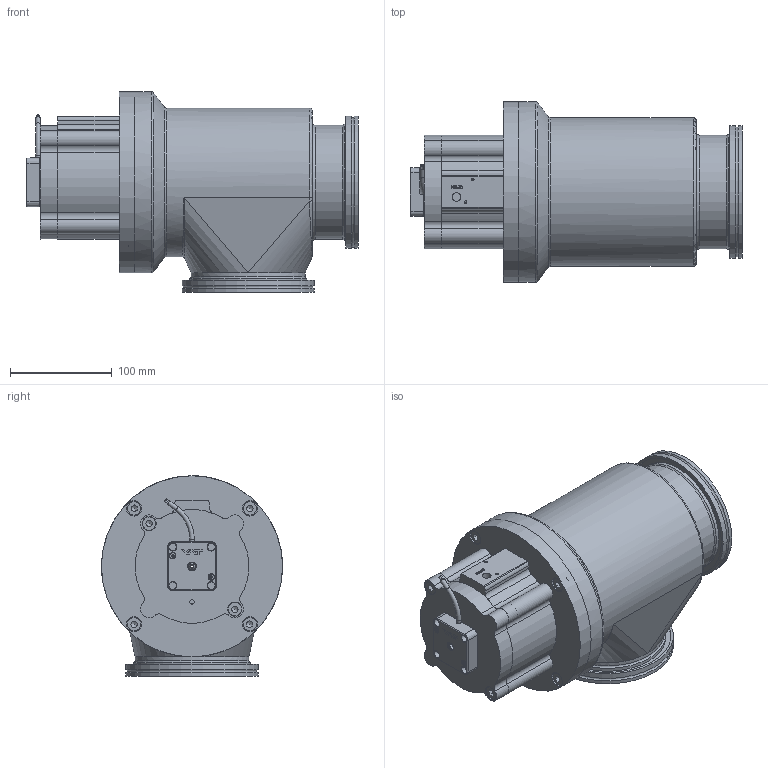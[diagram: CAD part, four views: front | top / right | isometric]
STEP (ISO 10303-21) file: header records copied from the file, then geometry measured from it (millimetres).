
FILE_DESCRIPTION(/* description */ (''),/* implementation_level */ '2;1');
FILE_NAME(/* name */ '1672032288_203.stp',/* time_stamp */ '2013-07-16T08:43:56+02:00',/* author */ (''),/* organization */ (''),/* preprocessor_version */ 'ST-DEVELOPER v11',/* originating_system */ 'SIEMENS PLM Software NX 7.5',/* authorisation */ '');
FILE_SCHEMA (('AP203_CONFIGURATION_CONTROLLED_3D_DESIGN_OF_MECHANICAL_PARTS_AND_ASSEMBLIES_MIM_LF'));
Length unit declared in the file: millimetre
Products named in the file (14): 518957_18148ID; n-6121-026.2; 517625_18154ID; 421306; 233359; 236204_1.1; 543750; 542372; 228777; 476060; 518946_MODEL; 542323_MODEL; 421285; 563648
Assembly tree (19 placements, depth 3):
  563648
    476060
    228777  x6
    542372
    421285
      236204_1.1  x2
      233359
      421306
    542323_MODEL
      517625_18154ID
      n-6121-026.2
    518946_MODEL
      518957_18148ID
    543750
Bounding box: 326.31 x 178 x 197 mm (x, y, z)
Volume: 1829193.6 mm3; surface area: 442019.5 mm2
Topology: 28 solids, 28 shells, 748 faces, 1822 edges, 1179 vertices
Faces by surface type: plane 375, cylinder 221, cone 78, bspline 34, torus 31, extrusion 8, sphere 1
Full cylindrical faces by diameter (mm): 1.4 x4, 2.5 x5, 3 x6, 3.85 x1, 4 x1, 4.2 x2, 4.5 x2, 5.6 x2, 6.2 x2, 6.66 x6, 6.7 x6, 6.8 x8, 7.4 x1, 8 x13, 8.15 x2, 8.4 x1, 8.566 x1, 9 x8, 13 x6, 14 x2, 15 x6, 21 x1, 23.011 x2, 23.3 x2, 29.4 x2, 30 x1, 33.7 x1, 36 x1, 39.5 x1, 40 x1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
Entity records: 22100 total; most frequent: CARTESIAN_POINT 5989, DIRECTION 2951, ORIENTED_EDGE 2712, EDGE_CURVE 1356, AXIS2_PLACEMENT_3D 1154, VERTEX_POINT 983, EDGE_LOOP 916, VECTOR 643
